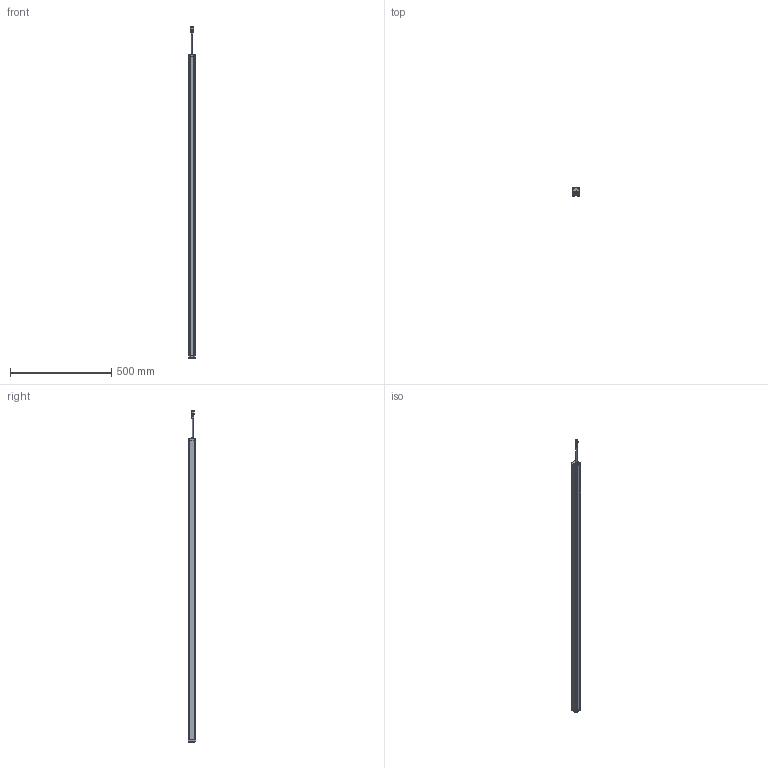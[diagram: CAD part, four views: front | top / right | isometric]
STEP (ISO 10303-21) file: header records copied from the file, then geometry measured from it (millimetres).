
FILE_DESCRIPTION((''),'2;1');
FILE_NAME('PRT0037','2026-03-31T13:49:56',('Administrator'),(''),'CREO PARAMETRIC BY PTC INC, 2016510','CREO PARAMETRIC BY PTC INC, 2016510','');
FILE_SCHEMA(('AUTOMOTIVE_DESIGN { 1 0 10303 214 1 1 1 1 }'));
Length unit declared in the file: millimetre
Products named in the file (1): PRT0037
Bounding box: 33 x 38 x 1641.9 mm (x, y, z)
Surface area: 325868.6 mm2 (no closed solid volume)
Topology: 0 solids, 12 shells, 802 faces, 2110 edges, 1331 vertices
Faces by surface type: plane 384, cylinder 229, extrusion 86, sphere 36, torus 35, cone 28, bspline 4
Entity records: 31422 total; most frequent: CARTESIAN_POINT 5904, ORIENTED_EDGE 4124, DIRECTION 3909, EDGE_CURVE 2062, VERTEX_POINT 1331, AXIS2_PLACEMENT_3D 1326, VECTOR 1257, LINE 1171
